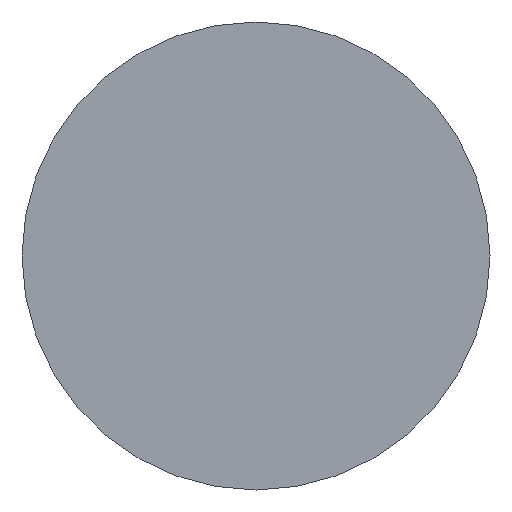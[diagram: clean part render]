
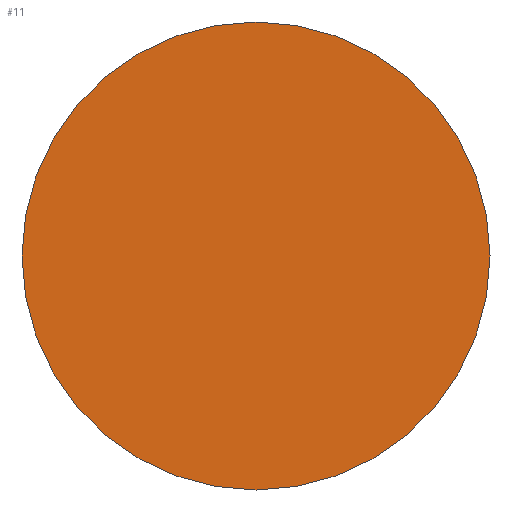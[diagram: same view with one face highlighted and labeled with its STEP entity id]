
A CAD part, left-side view. The second image highlights one B-rep face of the part: STEP entity #11.
In plain terms, the highlighted planar face has unit normal (-1, 0, 0).
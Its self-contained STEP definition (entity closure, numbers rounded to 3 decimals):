
#11 = ADVANCED_FACE ( 'NONE', ( #117 ), #227, .T. ) ;
#16 = CARTESIAN_POINT ( 'NONE',  ( 0., -7., 0. ) ) ;
#39 = EDGE_CURVE ( 'NONE', #153, #148, #53, .T. ) ;
#51 = DIRECTION ( 'NONE',  ( 0., 1., 0. ) ) ;
#53 = CIRCLE ( 'NONE', #87, 7. ) ;
#58 = DIRECTION ( 'NONE',  ( 1., 0., 0. ) ) ;
#67 = DIRECTION ( 'NONE',  ( 0., 1., 0. ) ) ;
#81 = DIRECTION ( 'NONE',  ( -1., 0., 0. ) ) ;
#87 = AXIS2_PLACEMENT_3D ( 'NONE', #142, #58, #67 ) ;
#96 = ORIENTED_EDGE ( 'NONE', *, *, #196, .F. ) ;
#98 = AXIS2_PLACEMENT_3D ( 'NONE', #197, #235, #51 ) ;
#102 = DIRECTION ( 'NONE',  ( 0., -1., 0. ) ) ;
#117 = FACE_OUTER_BOUND ( 'NONE', #150, .T. ) ;
#142 = CARTESIAN_POINT ( 'NONE',  ( 0., 0., 0. ) ) ;
#148 = VERTEX_POINT ( 'NONE', #195 ) ;
#150 = EDGE_LOOP ( 'NONE', ( #96, #166 ) ) ;
#153 = VERTEX_POINT ( 'NONE', #16 ) ;
#166 = ORIENTED_EDGE ( 'NONE', *, *, #39, .F. ) ;
#195 = CARTESIAN_POINT ( 'NONE',  ( 0., 7., 0. ) ) ;
#196 = EDGE_CURVE ( 'NONE', #148, #153, #248, .T. ) ;
#197 = CARTESIAN_POINT ( 'NONE',  ( 0., 0., 0. ) ) ;
#227 = PLANE ( 'NONE',  #241 ) ;
#235 = DIRECTION ( 'NONE',  ( 1., 0., 0. ) ) ;
#241 = AXIS2_PLACEMENT_3D ( 'NONE', #245, #81, #102 ) ;
#245 = CARTESIAN_POINT ( 'NONE',  ( 0., 0., 0. ) ) ;
#248 = CIRCLE ( 'NONE', #98, 7. ) ;
